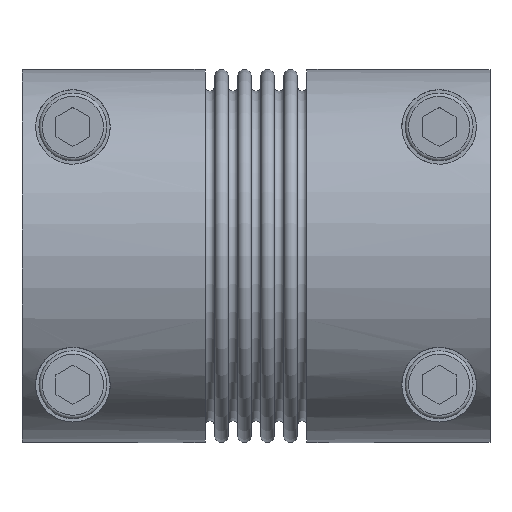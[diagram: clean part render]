
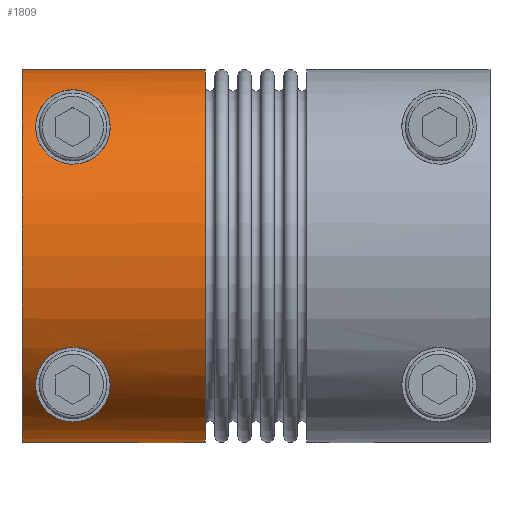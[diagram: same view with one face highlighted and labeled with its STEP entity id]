
A CAD part, top view. The second image highlights one B-rep face of the part: STEP entity #1809.
In plain terms, the highlighted cylindrical face has radius 27.5 mm (diameter 55 mm), a full revolution.
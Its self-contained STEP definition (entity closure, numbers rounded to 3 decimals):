
#91=FACE_BOUND('',#586,.T.);
#92=FACE_BOUND('',#587,.T.);
#133=B_SPLINE_CURVE_WITH_KNOTS('',3,(#3174,#3175,#3176,#3177,#3178,#3179,
#3180,#3181,#3182,#3183,#3184,#3185,#3186,#3187,#3188,#3189,#3190,#3191,
#3192,#3193,#3194,#3195,#3196,#3197,#3198,#3199,#3200,#3201,#3202,#3203,
#3204,#3205,#3206,#3207,#3208,#3209,#3210,#3211),.UNSPECIFIED.,.T.,.F.,
(4,2,2,2,2,2,2,2,2,2,2,2,2,2,2,2,2,2,4),(0.,0.203,0.406,
0.673,0.941,1.279,1.617,1.839,
1.95,2.061,2.172,2.284,2.506,
2.844,3.181,3.449,3.717,3.92,
4.123),.UNSPECIFIED.);
#134=B_SPLINE_CURVE_WITH_KNOTS('',3,(#3231,#3232,#3233,#3234,#3235,#3236,
#3237,#3238,#3239,#3240,#3241,#3242,#3243,#3244,#3245,#3246,#3247,#3248,
#3249,#3250),.UNSPECIFIED.,.F.,.F.,(4,2,2,2,2,2,2,2,2,4),(-4.123,
-4.011,-3.9,-3.678,-3.34,
-3.003,-2.735,-2.467,-2.264,
-2.061),.UNSPECIFIED.);
#135=B_SPLINE_CURVE_WITH_KNOTS('',3,(#3251,#3252,#3253,#3254,#3255,#3256,
#3257,#3258,#3259,#3260,#3261,#3262,#3263,#3264,#3265,#3266,#3267,#3268,
#3269,#3270),.UNSPECIFIED.,.F.,.F.,(4,2,2,2,2,2,2,2,2,4),(-2.061,
-1.858,-1.656,-1.388,-1.12,
-0.782,-0.445,-0.222,-0.111,
0.),.UNSPECIFIED.);
#162=LINE('',#3219,#305);
#163=LINE('',#3223,#306);
#164=LINE('',#3227,#307);
#305=VECTOR('',#2388,27.5);
#306=VECTOR('',#2391,17.);
#307=VECTOR('',#2394,17.);
#438=CYLINDRICAL_SURFACE('',#2026,27.5);
#473=FACE_OUTER_BOUND('',#585,.T.);
#585=EDGE_LOOP('',(#1406,#1407,#1408,#1409,#1410,#1411,#1412,#1413));
#586=EDGE_LOOP('',(#1414));
#587=EDGE_LOOP('',(#1415,#1416));
#786=CIRCLE('',#2027,27.5);
#787=CIRCLE('',#2028,27.5);
#788=CIRCLE('',#2029,27.5);
#789=CIRCLE('',#2030,27.5);
#898=VERTEX_POINT('',#3173);
#900=VERTEX_POINT('',#3216);
#901=VERTEX_POINT('',#3218);
#902=VERTEX_POINT('',#3220);
#903=VERTEX_POINT('',#3222);
#904=VERTEX_POINT('',#3224);
#905=VERTEX_POINT('',#3226);
#906=VERTEX_POINT('',#3229);
#907=VERTEX_POINT('',#3230);
#1106=EDGE_CURVE('',#898,#898,#133,.T.);
#1109=EDGE_CURVE('',#900,#900,#786,.T.);
#1110=EDGE_CURVE('',#900,#901,#162,.T.);
#1111=EDGE_CURVE('',#902,#901,#787,.T.);
#1112=EDGE_CURVE('',#903,#902,#163,.T.);
#1113=EDGE_CURVE('',#904,#903,#788,.T.);
#1114=EDGE_CURVE('',#905,#904,#164,.T.);
#1115=EDGE_CURVE('',#901,#905,#789,.T.);
#1116=EDGE_CURVE('',#906,#907,#134,.T.);
#1117=EDGE_CURVE('',#907,#906,#135,.T.);
#1406=ORIENTED_EDGE('',*,*,#1109,.T.);
#1407=ORIENTED_EDGE('',*,*,#1110,.T.);
#1408=ORIENTED_EDGE('',*,*,#1111,.F.);
#1409=ORIENTED_EDGE('',*,*,#1112,.F.);
#1410=ORIENTED_EDGE('',*,*,#1113,.F.);
#1411=ORIENTED_EDGE('',*,*,#1114,.F.);
#1412=ORIENTED_EDGE('',*,*,#1115,.F.);
#1413=ORIENTED_EDGE('',*,*,#1110,.F.);
#1414=ORIENTED_EDGE('',*,*,#1106,.F.);
#1415=ORIENTED_EDGE('',*,*,#1116,.F.);
#1416=ORIENTED_EDGE('',*,*,#1117,.F.);
#1809=ADVANCED_FACE('',(#473,#91,#92),#438,.T.);
#2026=AXIS2_PLACEMENT_3D('',#3215,#2384,#2385);
#2027=AXIS2_PLACEMENT_3D('',#3217,#2386,#2387);
#2028=AXIS2_PLACEMENT_3D('',#3221,#2389,#2390);
#2029=AXIS2_PLACEMENT_3D('',#3225,#2392,#2393);
#2030=AXIS2_PLACEMENT_3D('',#3228,#2395,#2396);
#2384=DIRECTION('center_axis',(1.,0.,0.));
#2385=DIRECTION('ref_axis',(0.,1.,0.));
#2386=DIRECTION('center_axis',(-1.,0.,0.));
#2387=DIRECTION('ref_axis',(0.,1.,0.));
#2388=DIRECTION('',(-1.,0.,0.));
#2389=DIRECTION('center_axis',(-1.,0.,0.));
#2390=DIRECTION('ref_axis',(0.,-1.,0.));
#2391=DIRECTION('',(1.,0.,0.));
#2392=DIRECTION('center_axis',(-1.,0.,0.));
#2393=DIRECTION('ref_axis',(0.,1.,0.));
#2394=DIRECTION('',(-1.,0.,0.));
#2395=DIRECTION('center_axis',(-1.,0.,0.));
#2396=DIRECTION('ref_axis',(0.,-1.,0.));
#3173=CARTESIAN_POINT('',(7.5,-13.5,23.958));
#3174=CARTESIAN_POINT('Ctrl Pts',(7.5,-13.5,23.958));
#3175=CARTESIAN_POINT('Ctrl Pts',(6.824,-13.5,23.958));
#3176=CARTESIAN_POINT('Ctrl Pts',(6.109,-13.633,23.885));
#3177=CARTESIAN_POINT('Ctrl Pts',(4.812,-14.151,23.582));
#3178=CARTESIAN_POINT('Ctrl Pts',(4.229,-14.535,23.35));
#3179=CARTESIAN_POINT('Ctrl Pts',(3.173,-15.508,22.72));
#3180=CARTESIAN_POINT('Ctrl Pts',(2.705,-16.197,22.242));
#3181=CARTESIAN_POINT('Ctrl Pts',(2.12,-17.622,21.132));
#3182=CARTESIAN_POINT('Ctrl Pts',(2.,-18.355,20.498));
#3183=CARTESIAN_POINT('Ctrl Pts',(2.,-19.814,19.103));
#3184=CARTESIAN_POINT('Ctrl Pts',(2.187,-20.635,18.215));
#3185=CARTESIAN_POINT('Ctrl Pts',(2.882,-22.096,16.413));
#3186=CARTESIAN_POINT('Ctrl Pts',(3.387,-22.737,15.498));
#3187=CARTESIAN_POINT('Ctrl Pts',(4.402,-23.574,14.174));
#3188=CARTESIAN_POINT('Ctrl Pts',(4.908,-23.892,13.625));
#3189=CARTESIAN_POINT('Ctrl Pts',(5.792,-24.238,12.994));
#3190=CARTESIAN_POINT('Ctrl Pts',(6.108,-24.332,12.815));
#3191=CARTESIAN_POINT('Ctrl Pts',(6.776,-24.463,12.563));
#3192=CARTESIAN_POINT('Ctrl Pts',(7.129,-24.5,12.49));
#3193=CARTESIAN_POINT('Ctrl Pts',(7.871,-24.5,12.49));
#3194=CARTESIAN_POINT('Ctrl Pts',(8.224,-24.463,12.563));
#3195=CARTESIAN_POINT('Ctrl Pts',(8.892,-24.332,12.815));
#3196=CARTESIAN_POINT('Ctrl Pts',(9.208,-24.238,12.994));
#3197=CARTESIAN_POINT('Ctrl Pts',(10.092,-23.892,13.625));
#3198=CARTESIAN_POINT('Ctrl Pts',(10.598,-23.574,14.174));
#3199=CARTESIAN_POINT('Ctrl Pts',(11.613,-22.737,15.498));
#3200=CARTESIAN_POINT('Ctrl Pts',(12.118,-22.096,16.413));
#3201=CARTESIAN_POINT('Ctrl Pts',(12.813,-20.635,18.215));
#3202=CARTESIAN_POINT('Ctrl Pts',(13.,-19.814,19.103));
#3203=CARTESIAN_POINT('Ctrl Pts',(13.,-18.355,20.498));
#3204=CARTESIAN_POINT('Ctrl Pts',(12.88,-17.622,21.132));
#3205=CARTESIAN_POINT('Ctrl Pts',(12.295,-16.197,22.242));
#3206=CARTESIAN_POINT('Ctrl Pts',(11.827,-15.508,22.72));
#3207=CARTESIAN_POINT('Ctrl Pts',(10.771,-14.535,23.35));
#3208=CARTESIAN_POINT('Ctrl Pts',(10.188,-14.151,23.582));
#3209=CARTESIAN_POINT('Ctrl Pts',(8.891,-13.633,23.885));
#3210=CARTESIAN_POINT('Ctrl Pts',(8.176,-13.5,23.958));
#3211=CARTESIAN_POINT('Ctrl Pts',(7.5,-13.5,23.958));
#3215=CARTESIAN_POINT('Origin',(0.,0.,0.));
#3216=CARTESIAN_POINT('',(27.,-27.5,0.));
#3217=CARTESIAN_POINT('Origin',(27.,0.,0.));
#3218=CARTESIAN_POINT('',(17.,-27.5,0.));
#3219=CARTESIAN_POINT('',(0.,-27.5,0.));
#3220=CARTESIAN_POINT('',(17.,27.49,0.75));
#3221=CARTESIAN_POINT('Origin',(17.,0.,0.));
#3222=CARTESIAN_POINT('',(0.,27.49,0.75));
#3223=CARTESIAN_POINT('',(0.,27.49,0.75));
#3224=CARTESIAN_POINT('',(0.,-27.49,0.75));
#3225=CARTESIAN_POINT('Origin',(0.,0.,0.));
#3226=CARTESIAN_POINT('',(17.,-27.49,0.75));
#3227=CARTESIAN_POINT('',(17.,-27.49,0.75));
#3228=CARTESIAN_POINT('Origin',(17.,0.,0.));
#3229=CARTESIAN_POINT('',(7.5,24.5,12.49));
#3230=CARTESIAN_POINT('',(7.5,13.5,23.958));
#3231=CARTESIAN_POINT('Ctrl Pts',(7.5,24.5,12.49));
#3232=CARTESIAN_POINT('Ctrl Pts',(7.129,24.5,12.49));
#3233=CARTESIAN_POINT('Ctrl Pts',(6.776,24.463,12.563));
#3234=CARTESIAN_POINT('Ctrl Pts',(6.108,24.332,12.815));
#3235=CARTESIAN_POINT('Ctrl Pts',(5.792,24.238,12.994));
#3236=CARTESIAN_POINT('Ctrl Pts',(4.908,23.892,13.625));
#3237=CARTESIAN_POINT('Ctrl Pts',(4.402,23.574,14.174));
#3238=CARTESIAN_POINT('Ctrl Pts',(3.387,22.737,15.498));
#3239=CARTESIAN_POINT('Ctrl Pts',(2.882,22.096,16.413));
#3240=CARTESIAN_POINT('Ctrl Pts',(2.187,20.635,18.215));
#3241=CARTESIAN_POINT('Ctrl Pts',(2.,19.814,19.103));
#3242=CARTESIAN_POINT('Ctrl Pts',(2.,18.355,20.498));
#3243=CARTESIAN_POINT('Ctrl Pts',(2.12,17.622,21.132));
#3244=CARTESIAN_POINT('Ctrl Pts',(2.705,16.197,22.242));
#3245=CARTESIAN_POINT('Ctrl Pts',(3.173,15.508,22.72));
#3246=CARTESIAN_POINT('Ctrl Pts',(4.229,14.535,23.35));
#3247=CARTESIAN_POINT('Ctrl Pts',(4.812,14.151,23.582));
#3248=CARTESIAN_POINT('Ctrl Pts',(6.109,13.633,23.885));
#3249=CARTESIAN_POINT('Ctrl Pts',(6.824,13.5,23.958));
#3250=CARTESIAN_POINT('Ctrl Pts',(7.5,13.5,23.958));
#3251=CARTESIAN_POINT('Ctrl Pts',(7.5,13.5,23.958));
#3252=CARTESIAN_POINT('Ctrl Pts',(8.176,13.5,23.958));
#3253=CARTESIAN_POINT('Ctrl Pts',(8.891,13.633,23.885));
#3254=CARTESIAN_POINT('Ctrl Pts',(10.188,14.151,23.582));
#3255=CARTESIAN_POINT('Ctrl Pts',(10.771,14.535,23.35));
#3256=CARTESIAN_POINT('Ctrl Pts',(11.827,15.508,22.72));
#3257=CARTESIAN_POINT('Ctrl Pts',(12.295,16.197,22.242));
#3258=CARTESIAN_POINT('Ctrl Pts',(12.88,17.622,21.132));
#3259=CARTESIAN_POINT('Ctrl Pts',(13.,18.355,20.498));
#3260=CARTESIAN_POINT('Ctrl Pts',(13.,19.814,19.103));
#3261=CARTESIAN_POINT('Ctrl Pts',(12.813,20.635,18.215));
#3262=CARTESIAN_POINT('Ctrl Pts',(12.118,22.096,16.413));
#3263=CARTESIAN_POINT('Ctrl Pts',(11.613,22.737,15.498));
#3264=CARTESIAN_POINT('Ctrl Pts',(10.598,23.574,14.174));
#3265=CARTESIAN_POINT('Ctrl Pts',(10.092,23.892,13.625));
#3266=CARTESIAN_POINT('Ctrl Pts',(9.208,24.238,12.994));
#3267=CARTESIAN_POINT('Ctrl Pts',(8.892,24.332,12.815));
#3268=CARTESIAN_POINT('Ctrl Pts',(8.224,24.463,12.563));
#3269=CARTESIAN_POINT('Ctrl Pts',(7.871,24.5,12.49));
#3270=CARTESIAN_POINT('Ctrl Pts',(7.5,24.5,12.49));
